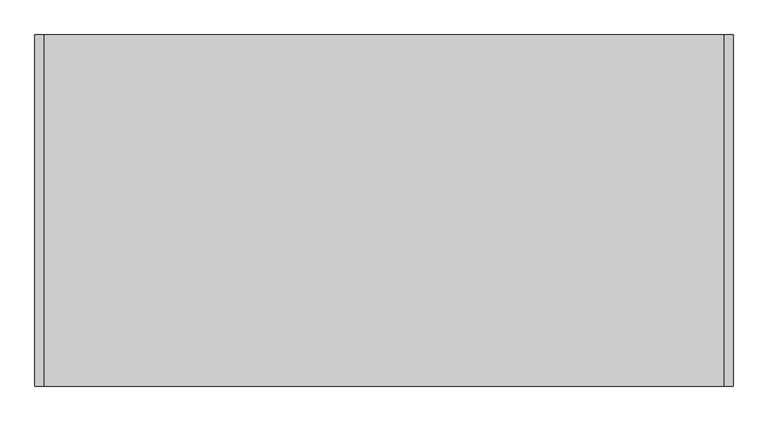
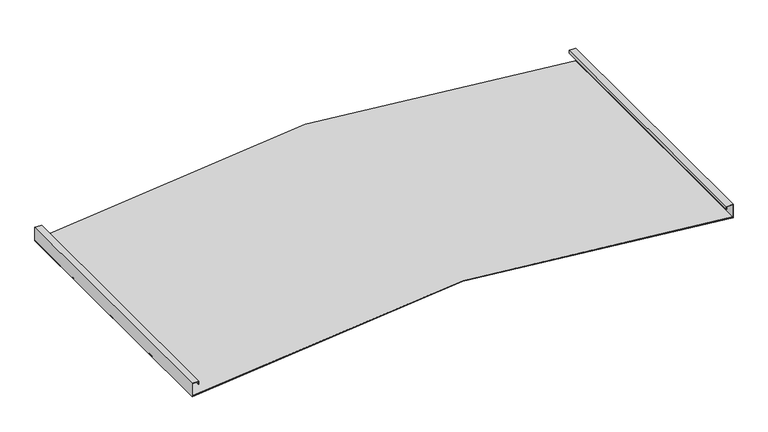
"""IFC4 building model written with IfcOpenShell, lengths in millimetres: proxy geometry, durlum_S7_DOMUS_panel : durlum_S7_DOMUS_panel_wall_length_cut."""

from ifc_helpers import new_model, si_unit, point, frame, frame_2d, origin, place, context, project, spatial, polyline, circle_curve, trimmed, segment, composite_curve, outline, extrude, source, transform, mapped, element, save


def generic_models_d653b811(model_context):
    return source(origin(), model_context, "Body", "SweptSolid", [
        extrude(outline(composite_curve([segment(trimmed(circle_curve(frame_2d((-2930.1333333, 0.0)), 2991.1333333), [point((1.2236251, -595.0))], [point((1.2236251, 595.0))], True, "CARTESIAN"), True, "CONTINUOUS"), segment(polyline([(1.2236251, 595.0), (2.2440101, 595.0)]), True, "CONTINUOUS"), segment(trimmed(circle_curve(frame_2d((-2930.1333333, 0.0)), 2992.1333333), [point((2.2440101, 595.0))], [point((2.2440101, -595.0))], False, "CARTESIAN"), True, "CONTINUOUS"), segment(polyline([(2.2440101, -595.0), (1.2236251, -595.0)]), True, "CONTINUOUS")], self_intersect=False)), frame((0.0, -299.75, 0.0), z_axis=(0.0, 1.0, 0.0), x_axis=(0.0, 0.0, 1.0)), (0.0, 0.0, 1.0), 599.5),
        extrude(outline(polyline([(31.0, -596.0), (0.0, -596.0), (0.0, -595.0), (30.0, -595.0), (30.0, -582.0), (24.5, -582.0), (24.5, -581.0), (31.0, -581.0), (31.0, -596.0)])), frame((0.0, -299.75, 0.0), z_axis=(0.0, 1.0, 0.0), x_axis=(0.0, 0.0, 1.0)), (0.0, 0.0, 1.0), 599.5),
        extrude(outline(polyline([(31.0, 596.0), (31.0, 581.0), (24.5, 581.0), (24.5, 582.0), (30.0, 582.0), (30.0, 595.0), (0.0, 595.0), (0.0, 596.0), (31.0, 596.0)])), frame((0.0, -299.75, 0.0), z_axis=(0.0, 1.0, 0.0), x_axis=(0.0, 0.0, 1.0)), (0.0, 0.0, 1.0), 599.5),
        extrude(outline(composite_curve([segment(polyline([(1.0204698, -596.0), (0.0, -596.0)]), True, "CONTINUOUS"), segment(trimmed(circle_curve(frame_2d((-2930.1333333, 0.0)), 2990.1333333), [point((0.0, -596.0))], [point((0.0, 596.0))], True, "CARTESIAN"), True, "CONTINUOUS"), segment(polyline([(0.0, 596.0), (1.0204698, 596.0)]), True, "CONTINUOUS"), segment(trimmed(circle_curve(frame_2d((-2930.1333333, 0.0)), 2991.1333333), [point((1.0204698, 596.0))], [point((1.0204698, -596.0))], False, "CARTESIAN"), True, "CONTINUOUS")], self_intersect=False)), frame((0.0, -299.75, 0.0), z_axis=(0.0, 1.0, 0.0), x_axis=(0.0, 0.0, 1.0)), (0.0, 0.0, 1.0), 599.5),
    ])


if __name__ == "__main__":
    model = new_model("IFC4")
    model_context = context("Model", 3, world=origin())
    ifc_project = project(units=[si_unit("LENGTHUNIT", "METRE", prefix="MILLI")], contexts=[model_context])
    site = spatial("IfcSite", under=ifc_project)
    building = spatial("IfcBuilding", under=site)
    placement = place(None, origin())
    generic_models_shape = generic_models_d653b811(model_context)
    element("IfcBuildingElementProxy", 1, Name="durlum_S7_DOMUS_panel : durlum_S7_DOMUS_panel_wall_length_cut", ObjectType="durlum_S7_DOMUS_panel : durlum_S7_DOMUS_panel_wall_length_cut", at=placement, inside=building, context=model_context, shape_type="MappedRepresentation", body=[
        mapped(generic_models_shape, transform((0.0, 0.0, 0.0), x_axis=(1.0, 0.0, 0.0), y_axis=(0.0, 1.0, 0.0), z_axis=(0.0, 0.0, 1.0))),
    ])
    save(model, "model.ifc")
